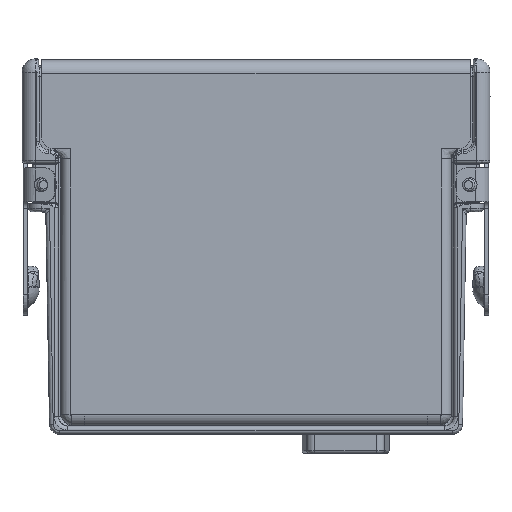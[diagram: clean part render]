
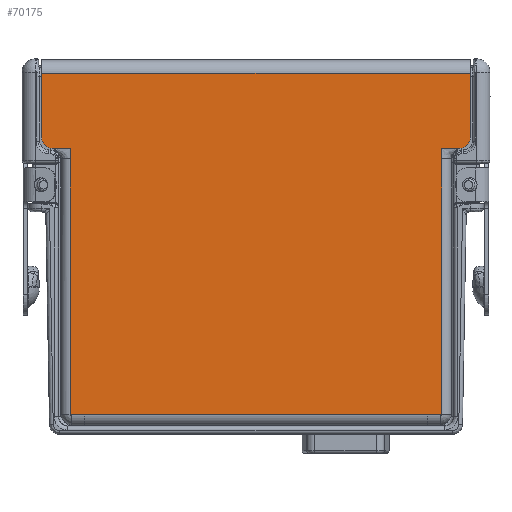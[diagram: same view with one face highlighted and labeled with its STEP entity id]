
A CAD part, left-side view. The second image highlights one B-rep face of the part: STEP entity #70175.
In plain terms, the highlighted planar face has unit normal (-1, 0, 0).
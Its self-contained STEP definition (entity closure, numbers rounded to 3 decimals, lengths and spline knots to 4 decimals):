
#624=DIRECTION('',(0.,-1.,0.));
#625=VECTOR('',#624,3.179);
#626=CARTESIAN_POINT('',(-0.4475,1.5895,2.676));
#627=LINE('',#626,#625);
#19088=DIRECTION('',(0.,-1.,0.));
#19089=VECTOR('',#19088,2.543);
#19090=CARTESIAN_POINT('',(-0.4475,1.2715,0.146));
#19091=LINE('',#19090,#19089);
#19100=DIRECTION('',(0.,0.,-1.));
#19101=VECTOR('',#19100,0.476);
#19102=CARTESIAN_POINT('',(-0.4475,1.5895,2.676));
#19103=LINE('',#19102,#19101);
#19104=DIRECTION('',(0.,0.,1.));
#19105=VECTOR('',#19104,0.476);
#19106=CARTESIAN_POINT('',(-0.4475,-1.5895,2.2));
#19107=LINE('',#19106,#19105);
#19108=DIRECTION('',(0.,0.,1.));
#19109=VECTOR('',#19108,0.079);
#19110=CARTESIAN_POINT('',(-0.4475,-1.3765,2.041));
#19111=LINE('',#19110,#19109);
#19112=DIRECTION('',(0.,-1.,0.));
#19113=VECTOR('',#19112,0.105);
#19114=CARTESIAN_POINT('',(-0.4475,-1.2715,0.146));
#19115=LINE('',#19114,#19113);
#19116=DIRECTION('',(0.,-1.,0.));
#19117=VECTOR('',#19116,0.105);
#19118=CARTESIAN_POINT('',(-0.4475,1.3765,0.146));
#19119=LINE('',#19118,#19117);
#19120=DIRECTION('',(0.,0.,1.));
#19121=VECTOR('',#19120,0.079);
#19122=CARTESIAN_POINT('',(-0.4475,1.3765,2.041));
#19123=LINE('',#19122,#19121);
#19137=CARTESIAN_POINT('',(-0.4475,1.5095,2.2));
#19138=DIRECTION('',(-1.,0.,0.));
#19139=DIRECTION('',(0.,1.,0.));
#19140=AXIS2_PLACEMENT_3D('',#19137,#19138,#19139);
#19142=DIRECTION('',(0.,-1.,0.));
#19143=VECTOR('',#19142,0.133);
#19144=CARTESIAN_POINT('',(-0.4475,1.5095,2.12));
#19145=LINE('',#19144,#19143);
#19162=DIRECTION('',(0.,0.,1.));
#19163=VECTOR('',#19162,1.895);
#19164=CARTESIAN_POINT('',(-0.4475,1.3765,0.146));
#19165=LINE('',#19164,#19163);
#19617=DIRECTION('',(0.,0.,1.));
#19618=VECTOR('',#19617,1.895);
#19619=CARTESIAN_POINT('',(-0.4475,-1.3765,0.146));
#19620=LINE('',#19619,#19618);
#19652=DIRECTION('',(0.,-1.,0.));
#19653=VECTOR('',#19652,0.133);
#19654=CARTESIAN_POINT('',(-0.4475,-1.3765,2.12));
#19655=LINE('',#19654,#19653);
#19669=CARTESIAN_POINT('',(-0.4475,-1.5095,2.2));
#19670=DIRECTION('',(-1.,0.,0.));
#19671=DIRECTION('',(0.,0.,-1.));
#19672=AXIS2_PLACEMENT_3D('',#19669,#19670,#19671);
#44290=CARTESIAN_POINT('',(-0.4475,-1.5895,2.676));
#44291=VERTEX_POINT('',#44290);
#44292=CARTESIAN_POINT('',(-0.4475,1.5895,2.676));
#44293=VERTEX_POINT('',#44292);
#44322=CARTESIAN_POINT('',(-0.4475,1.2715,0.146));
#44323=CARTESIAN_POINT('',(-0.4475,-1.2715,0.146));
#44324=VERTEX_POINT('',#44322);
#44325=VERTEX_POINT('',#44323);
#44334=CARTESIAN_POINT('',(-0.4475,-1.3765,0.146));
#44335=VERTEX_POINT('',#44334);
#44346=CARTESIAN_POINT('',(-0.4475,1.3765,0.146));
#44347=VERTEX_POINT('',#44346);
#44395=CARTESIAN_POINT('',(-0.4475,1.5095,2.12));
#44397=VERTEX_POINT('',#44395);
#44400=CARTESIAN_POINT('',(-0.4475,1.5895,2.2));
#44401=VERTEX_POINT('',#44400);
#44403=CARTESIAN_POINT('',(-0.4475,-1.5895,2.2));
#44405=VERTEX_POINT('',#44403);
#44408=CARTESIAN_POINT('',(-0.4475,-1.5095,2.12));
#44409=VERTEX_POINT('',#44408);
#44422=CARTESIAN_POINT('',(-0.4475,-1.3765,2.041));
#44423=VERTEX_POINT('',#44422);
#44426=CARTESIAN_POINT('',(-0.4475,-1.3765,2.12));
#44427=VERTEX_POINT('',#44426);
#44434=CARTESIAN_POINT('',(-0.4475,1.3765,2.041));
#44435=CARTESIAN_POINT('',(-0.4475,1.3765,2.12));
#44436=VERTEX_POINT('',#44434);
#44437=VERTEX_POINT('',#44435);
#70143=CARTESIAN_POINT('',(-0.4475,0.,1.421));
#70144=DIRECTION('',(-1.,0.,0.));
#70145=DIRECTION('',(0.,1.,0.));
#70146=AXIS2_PLACEMENT_3D('',#70143,#70144,#70145);
#70147=PLANE('',#70146);
#70149=ORIENTED_EDGE('',*,*,#70148,.F.);
#70151=ORIENTED_EDGE('',*,*,#70150,.F.);
#70152=ORIENTED_EDGE('',*,*,#45561,.T.);
#70154=ORIENTED_EDGE('',*,*,#70153,.F.);
#70156=ORIENTED_EDGE('',*,*,#70155,.F.);
#70158=ORIENTED_EDGE('',*,*,#70157,.F.);
#70160=ORIENTED_EDGE('',*,*,#70159,.F.);
#70162=ORIENTED_EDGE('',*,*,#70161,.F.);
#70163=ORIENTED_EDGE('',*,*,#70133,.F.);
#70164=ORIENTED_EDGE('',*,*,#70109,.F.);
#70166=ORIENTED_EDGE('',*,*,#70165,.F.);
#70168=ORIENTED_EDGE('',*,*,#70167,.T.);
#70170=ORIENTED_EDGE('',*,*,#70169,.T.);
#70172=ORIENTED_EDGE('',*,*,#70171,.F.);
#70173=EDGE_LOOP('',(#70149,#70151,#70152,#70154,#70156,#70158,#70160,#70162,
#70163,#70164,#70166,#70168,#70170,#70172));
#70174=FACE_OUTER_BOUND('',#70173,.F.);
#70175=ADVANCED_FACE('',(#70174),#70147,.T.);
#19141=CIRCLE('',#19140,0.08);
#19673=CIRCLE('',#19672,0.08);
#45561=EDGE_CURVE('',#44293,#44291,#627,.T.);
#70109=EDGE_CURVE('',#44324,#44325,#19091,.T.);
#70133=EDGE_CURVE('',#44325,#44335,#19115,.T.);
#70148=EDGE_CURVE('',#44401,#44397,#19141,.T.);
#70150=EDGE_CURVE('',#44293,#44401,#19103,.T.);
#70153=EDGE_CURVE('',#44405,#44291,#19107,.T.);
#70155=EDGE_CURVE('',#44409,#44405,#19673,.T.);
#70157=EDGE_CURVE('',#44427,#44409,#19655,.T.);
#70159=EDGE_CURVE('',#44423,#44427,#19111,.T.);
#70161=EDGE_CURVE('',#44335,#44423,#19620,.T.);
#70165=EDGE_CURVE('',#44347,#44324,#19119,.T.);
#70167=EDGE_CURVE('',#44347,#44436,#19165,.T.);
#70169=EDGE_CURVE('',#44436,#44437,#19123,.T.);
#70171=EDGE_CURVE('',#44397,#44437,#19145,.T.);
